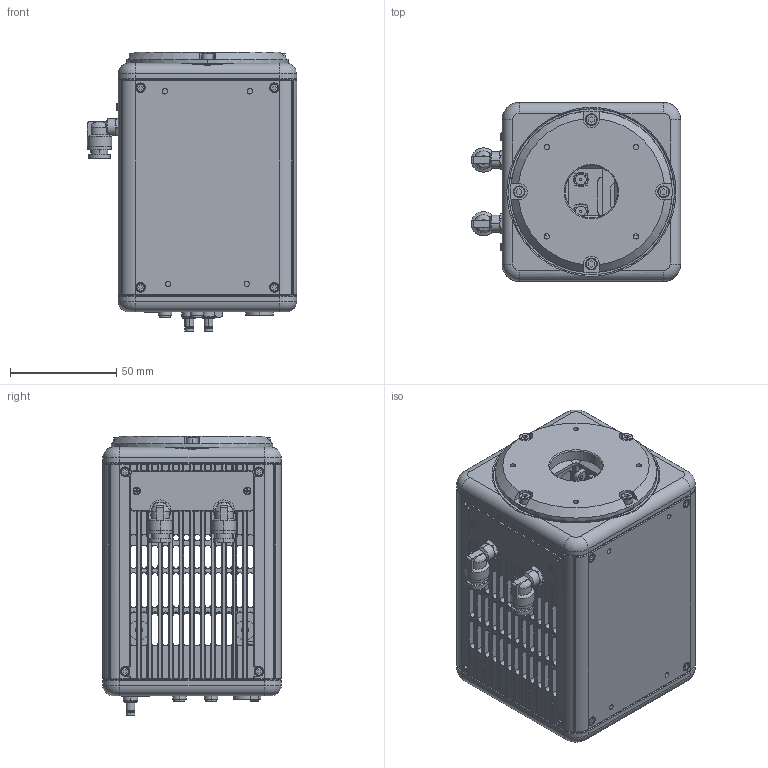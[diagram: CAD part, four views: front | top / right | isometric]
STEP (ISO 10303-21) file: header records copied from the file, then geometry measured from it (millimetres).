
FILE_DESCRIPTION (( 'STEP AP214' ), '1' );
FILE_NAME ('B1064-10T01__C14440-20UP.STEP', '2019-05-10T10:25:06', ( '' ), ( '' ), 'SwSTEP 2.0', 'SolidWorks 2017', '' );
FILE_SCHEMA (( 'AUTOMOTIVE_DESIGN' ));
Length unit declared in the file: millimetre
Products named in the file (158): 20190510__C14440_ORCA-FUSION-88; 20190510__C14440_ORCA-FUSION-155; 20190510__C14440_ORCA-FUSION-65; 20190510__C14440_ORCA-FUSION-61; 20190510__C14440_ORCA-FUSION-91; 20190510__C14440_ORCA-FUSION-41; 20190510__C14440_ORCA-FUSION-78; 20190510__C14440_ORCA-FUSION-144; 20190510__C14440_ORCA-FUSION-51; 20190510__C14440_ORCA-FUSION-96; 20190510__C14440_ORCA-FUSION-19; 20190510__C14440_ORCA-FUSION-57; 20190510__C14440_ORCA-FUSION-100; 20190510__C14440_ORCA-FUSION-21; 20190510__C14440_ORCA-FUSION-98; 20190510__C14440_ORCA-FUSION-139; 20190510__C14440_ORCA-FUSION-45; 20190510__C14440_ORCA-FUSION-94; 20190510__C14440_ORCA-FUSION-149; 20190510__C14440_ORCA-FUSION-12; 20190510__C14440_ORCA-FUSION-66; 20190510__C14440_ORCA-FUSION-117; 20190510__C14440_ORCA-FUSION-3; 20190510__C14440_ORCA-FUSION-58; 20190510__C14440_ORCA-FUSION-77; 20190510__C14440_ORCA-FUSION-44; 20190510__C14440_ORCA-FUSION-107; 20190510__C14440_ORCA-FUSION-67; 20190510__C14440_ORCA-FUSION-123; 20190510__C14440_ORCA-FUSION-151; 20190510__C14440_ORCA-FUSION-34; 20190510__C14440_ORCA-FUSION-105; 20190510__C14440_ORCA-FUSION-30; 20190510__C14440_ORCA-FUSION-104; 20190510__C14440_ORCA-FUSION-64; 20190510__C14440_ORCA-FUSION-2; 20190510__C14440_ORCA-FUSION-97; 20190510__C14440_ORCA-FUSION-29; 20190510__C14440_ORCA-FUSION-99; 20190510__C14440_ORCA-FUSION-32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
Assembly tree (157 placements, depth 2):
  B1064-10T01__C14440-20UP
    Part_1
    20190510__C14440_ORCA-FUSION-1
    20190510__C14440_ORCA-FUSION-2
    20190510__C14440_ORCA-FUSION-3
    20190510__C14440_ORCA-FUSION-4
    20190510__C14440_ORCA-FUSION-5
    20190510__C14440_ORCA-FUSION-6
    20190510__C14440_ORCA-FUSION-7
    20190510__C14440_ORCA-FUSION-8
    20190510__C14440_ORCA-FUSION-9
    20190510__C14440_ORCA-FUSION-10
    20190510__C14440_ORCA-FUSION-11
    20190510__C14440_ORCA-FUSION-12
    20190510__C14440_ORCA-FUSION-13
    20190510__C14440_ORCA-FUSION-14
    20190510__C14440_ORCA-FUSION-15
    20190510__C14440_ORCA-FUSION-16
    20190510__C14440_ORCA-FUSION-17
    20190510__C14440_ORCA-FUSION-18
    20190510__C14440_ORCA-FUSION-19
    20190510__C14440_ORCA-FUSION-20
    20190510__C14440_ORCA-FUSION-21
    20190510__C14440_ORCA-FUSION-22
    20190510__C14440_ORCA-FUSION-23
    20190510__C14440_ORCA-FUSION-24
    20190510__C14440_ORCA-FUSION-25
    20190510__C14440_ORCA-FUSION-26
    20190510__C14440_ORCA-FUSION-27
    20190510__C14440_ORCA-FUSION-28
    20190510__C14440_ORCA-FUSION-29
    20190510__C14440_ORCA-FUSION-30
    20190510__C14440_ORCA-FUSION-31
    20190510__C14440_ORCA-FUSION-32
    20190510__C14440_ORCA-FUSION-33
    20190510__C14440_ORCA-FUSION-34
    20190510__C14440_ORCA-FUSION-35
    20190510__C14440_ORCA-FUSION-36
    20190510__C14440_ORCA-FUSION-37
    20190510__C14440_ORCA-FUSION-38
    20190510__C14440_ORCA-FUSION-39
    20190510__C14440_ORCA-FUSION-40
    20190510__C14440_ORCA-FUSION-41
    20190510__C14440_ORCA-FUSION-42
    20190510__C14440_ORCA-FUSION-43
    20190510__C14440_ORCA-FUSION-44
    20190510__C14440_ORCA-FUSION-45
    20190510__C14440_ORCA-FUSION-46
    20190510__C14440_ORCA-FUSION-47
    20190510__C14440_ORCA-FUSION-48
    20190510__C14440_ORCA-FUSION-49
    20190510__C14440_ORCA-FUSION-50
    20190510__C14440_ORCA-FUSION-51
    20190510__C14440_ORCA-FUSION-52
    20190510__C14440_ORCA-FUSION-53
    20190510__C14440_ORCA-FUSION-54
    20190510__C14440_ORCA-FUSION-55
    20190510__C14440_ORCA-FUSION-56
    20190510__C14440_ORCA-FUSION-57
    20190510__C14440_ORCA-FUSION-58
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Bounding box: 98.5 x 84.01 x 131.65 mm (x, y, z)
Volume: 134715.7 mm3; surface area: 163425.4 mm2
Topology: 155 solids, 158 shells, 4068 faces, 10973 edges, 7270 vertices
Faces by surface type: plane 2197, cylinder 1331, bspline 362, cone 166, torus 12
Entity records: 178171 total; most frequent: CARTESIAN_POINT 65860, ORIENTED_EDGE 21826, DIRECTION 17939, EDGE_CURVE 10915, VERTEX_POINT 7270, LINE 6661, VECTOR 6661, AXIS2_PLACEMENT_3D 5639
